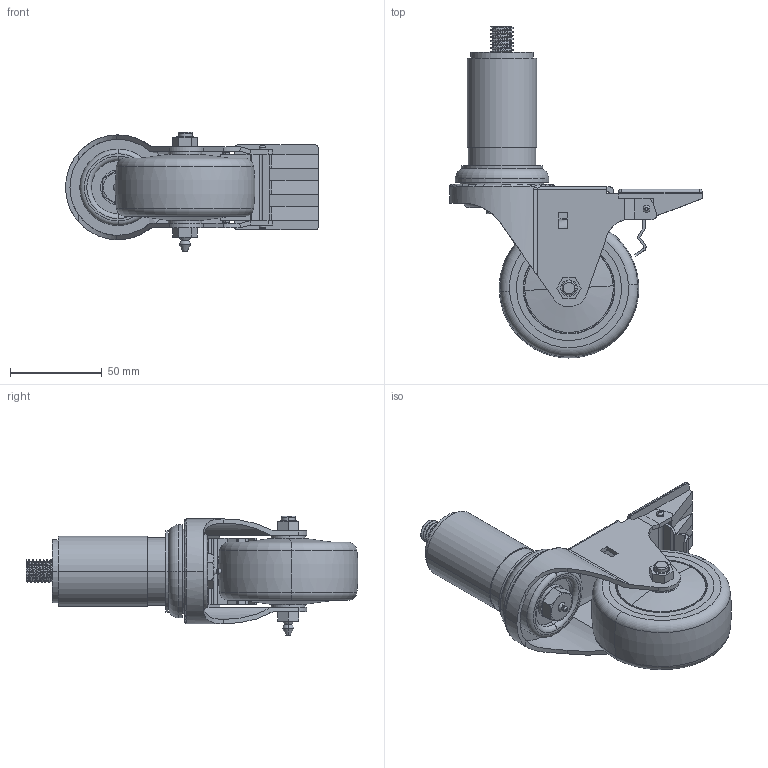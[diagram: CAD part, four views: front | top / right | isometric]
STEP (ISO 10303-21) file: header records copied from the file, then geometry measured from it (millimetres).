
FILE_DESCRIPTION (( 'STEP AP214' ), '1' );
FILE_NAME ('SCC-EX20S314-PPUB-ORG-PLB-112 3D STEP.STEP', '2024-10-11T04:57:20', ( '' ), ( '' ), 'SwSTEP 2.0', 'SolidWorks 2016', '' );
FILE_SCHEMA (( 'AUTOMOTIVE_DESIGN' ));
Length unit declared in the file: inch
Products named in the file (1): SCC-EX20S314-PPUB-ORG-PLB-112 3D STEP
Bounding box: 137.79 x 180.91 x 65.38 mm (x, y, z)
Volume: 305043.8 mm3; surface area: 85219.1 mm2
Topology: 7 solids, 9 shells, 493 faces, 1216 edges, 774 vertices
Faces by surface type: plane 227, cylinder 133, bspline 70, torus 41, cone 14, sphere 8
Entity records: 37030 total; most frequent: CARTESIAN_POINT 19236, ORIENTED_EDGE 2408, DIRECTION 2200, EDGE_CURVE 1204, VERTEX_POINT 770, AXIS2_PLACEMENT_3D 766, VECTOR 668, LINE 668
